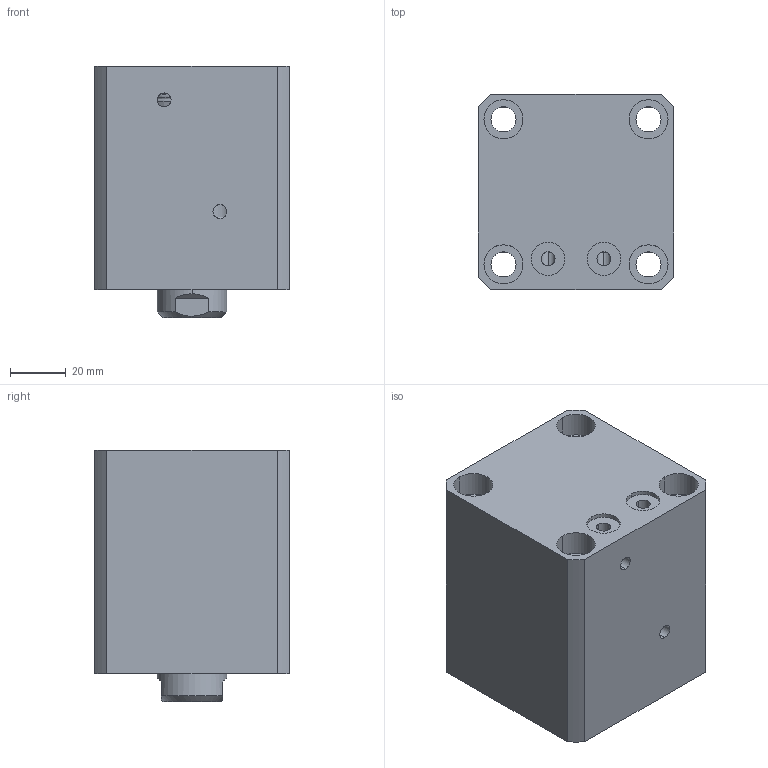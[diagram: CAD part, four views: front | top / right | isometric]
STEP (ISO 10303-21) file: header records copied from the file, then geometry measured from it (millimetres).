
FILE_DESCRIPTION (( 'STEP AP214' ), '1' );
FILE_NAME ('chtb-sdmb40x25n_asm.STEP', '2018-06-07T03:05:43', ( 'Windows' ), ( 'Microsoft' ), 'SwSTEP 2.0', 'SolidWorks 2015', '' );
FILE_SCHEMA (( 'AUTOMOTIVE_DESIGN' ));
Length unit declared in the file: millimetre
Products named in the file (4): CHTB-SDMB40X25NBT; CHTB-SD40X25NHSG; CHTB-SD40QG; chtb-sdmb40x25n_asm
Assembly tree (3 placements, depth 2):
  chtb-sdmb40x25n_asm
    CHTB-SD40QG
    CHTB-SD40X25NHSG
    CHTB-SDMB40X25NBT
Bounding box: 70 x 70 x 90 mm (x, y, z)
Volume: 336526.6 mm3; surface area: 74085.7 mm2
Topology: 3 solids, 3 shells, 155 faces, 407 edges, 270 vertices
Faces by surface type: cylinder 84, plane 34, bspline 14, torus 14, cone 9
Entity records: 10007 total; most frequent: CARTESIAN_POINT 6085, ORIENTED_EDGE 802, DIRECTION 758, EDGE_CURVE 401, AXIS2_PLACEMENT_3D 322, VERTEX_POINT 270, EDGE_LOOP 191, CIRCLE 175
